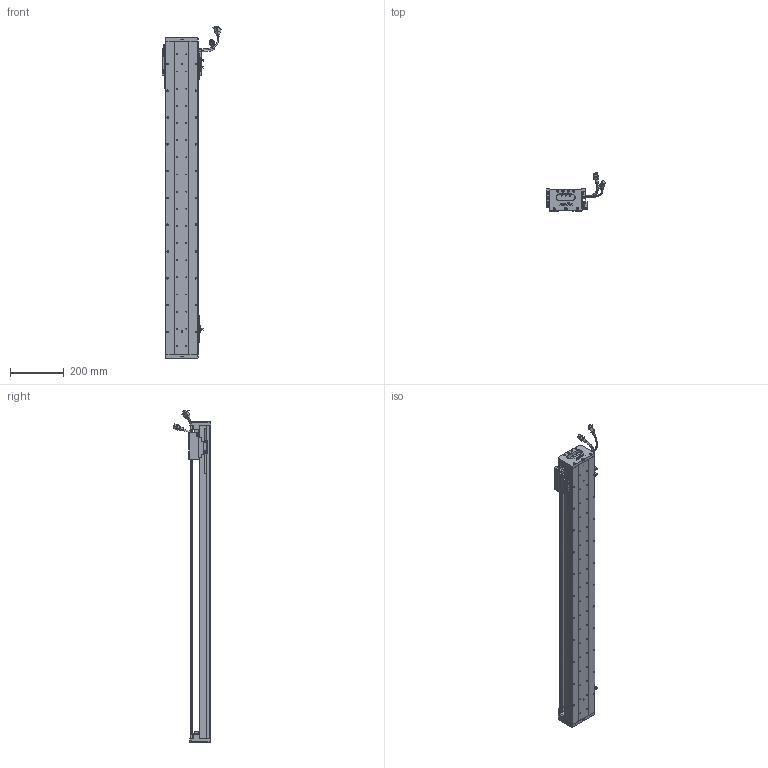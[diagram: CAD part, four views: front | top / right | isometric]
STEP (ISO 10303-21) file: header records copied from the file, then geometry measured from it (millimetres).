
FILE_DESCRIPTION (( 'STEP AP203' ), '1' );
FILE_NAME ('Z1-RY120D-1-L500-B-K.SLDASM_1000.step', '2021-05-17T03:46:04', ( '盈信电脑' ), ( '东莞市道滘镇水果街19号' ), 'SwSTEP 2.0', 'SolidWorks 2016', '' );
FILE_SCHEMA (( 'CONFIG_CONTROL_DESIGN' ));
Length unit declared in the file: millimetre
Products named in the file (37): SEAL-Part-1; COVER; SCALE-Part-2; 榋妏寠巭燃_暯_M2_2; PSLH080_PSLF2; 672嫖萇羲壽假蚾釱; Z-120詩湍傷裔啣; SHIELDPLATE; Z1-RY120D-1-L500-B-K.SLDASM_1000; SCREW-M1.6-3; HARNESS-Part-2; Z1-RY120-500-倰第菁釱_1000; SCREW-M1.6-2; Z1-RY120-L500詩湍100mm遵_1000; SCALE-Part-1; 120-Z-臏賑輸盄裔(21遴); 覜茼ん672; 140蚥薯蝶輸; Z-RY120D詩湍狟揤裔; SEAL; Z-RY120D詩湍奻揤裔; LABEL; COVER-Part-1; SCREW-M1.7; PBU_SHEET; LABEL-Part-1; HARNESS-Part-1; 080黍杅芛假蚾釱21遴; 140雄赽晤鎢ん堤盄; SCREW-M1.6; SCALE; Z1-RY120铝滑块（21款）; RY100FB-遵嫖萇覜茼え; SCREW-M1.7-1; HARNESS; HOLDER0; SCREW-M1.6-1
Assembly tree (43 placements, depth 4):
  Z1-RY120D-1-L500-B-K.SLDASM_1000
    Z1-RY120-500-倰第菁釱_1000
    覜茼ん672  x3
    672嫖萇羲壽假蚾釱  x2
    Z1-RY120铝滑块（21款）
    PSLH080_PSLF2
      SCALE
        SCALE-Part-1
        SCALE-Part-2
      HARNESS
        HARNESS-Part-1
        HARNESS-Part-2
      LABEL
        LABEL-Part-1
      COVER
        COVER-Part-1
      SEAL
        SEAL-Part-1
      榋妏寠巭燃_暯_M2_2
      SHIELDPLATE
      SCREW-M1.7
      SCREW-M1.7-1
      PBU_SHEET
      SCREW-M1.6
      SCREW-M1.6-1
      SCREW-M1.6-2
      SCREW-M1.6-3
      HOLDER0
    080黍杅芛假蚾釱21遴
    120-Z-臏賑輸盄裔(21遴)
    140雄赽晤鎢ん堤盄
    140蚥薯蝶輸  x2
    RY100FB-遵嫖萇覜茼え
    Z-120詩湍傷裔啣  x2
    Z-RY120D詩湍奻揤裔  x2
    Z-RY120D詩湍狟揤裔  x2
    Z1-RY120-L500詩湍100mm遵_1000
Bounding box: 222.87 x 140.94 x 1239 mm (x, y, z)
Volume: 3054281.8 mm3; surface area: 1076186.3 mm2
Topology: 38 solids, 38 shells, 2793 faces, 7600 edges, 4802 vertices
Faces by surface type: cylinder 1278, plane 1119, cone 274, torus 69, bspline 53
Entity records: 84811 total; most frequent: CARTESIAN_POINT 23140, ORIENTED_EDGE 12176, DIRECTION 11820, EDGE_CURVE 6088, AXIS2_PLACEMENT_3D 4308, VERTEX_POINT 3922, VECTOR 3204, LINE 3204
